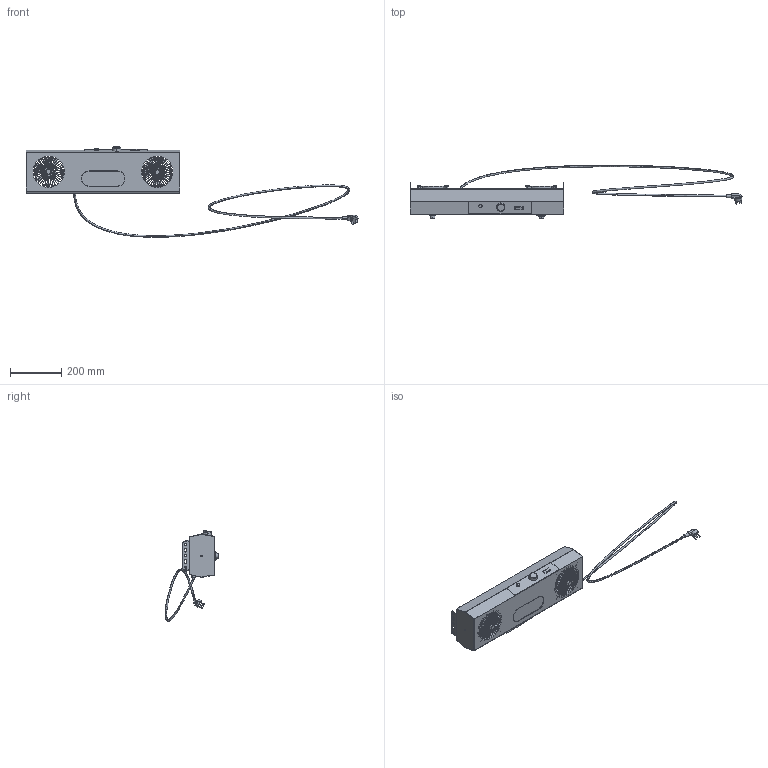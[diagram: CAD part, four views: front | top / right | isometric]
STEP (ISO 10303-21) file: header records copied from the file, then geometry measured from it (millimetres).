
FILE_DESCRIPTION (( 'STEP AP203' ), '1' );
FILE_NAME ('蚾饜极--60cm薜赽瑞齬.STEP', '2024-09-20T06:55:38', ( '' ), ( '' ), 'SwSTEP 2.0', 'SolidWorks 2020', '' );
FILE_SCHEMA (( 'CONFIG_CONTROL_DESIGN' ));
Length unit declared in the file: millimetre
Products named in the file (5): 大粒子风排110cm-电源插头-拉伸21; 60cm薜赽瑞齬; 60cm粒子风排-拉伸-薄壁3-高压粒子网; 蚾饜极--60cm薜赽瑞齬; 60cm粒子风排-风扇挡网板-薄壁2
Assembly tree (4 placements, depth 2):
  蚾饜极--60cm薜赽瑞齬
    60cm薜赽瑞齬
    60cm粒子风排-风扇挡网板-薄壁2
    60cm粒子风排-拉伸-薄壁3-高压粒子网
    大粒子风排110cm-电源插头-拉伸21
Bounding box: 1297.14 x 210.74 x 354.41 mm (x, y, z)
Volume: 562860.3 mm3; surface area: 783302.9 mm2
Topology: 16 solids, 16 shells, 1206 faces, 3374 edges, 2221 vertices
Faces by surface type: plane 596, cylinder 580, torus 20, bspline 8, cone 2
Entity records: 42037 total; most frequent: CARTESIAN_POINT 8985, DIRECTION 6836, ORIENTED_EDGE 6748, EDGE_CURVE 3374, AXIS2_PLACEMENT_3D 2392, VERTEX_POINT 2221, VECTOR 2052, LINE 2052
